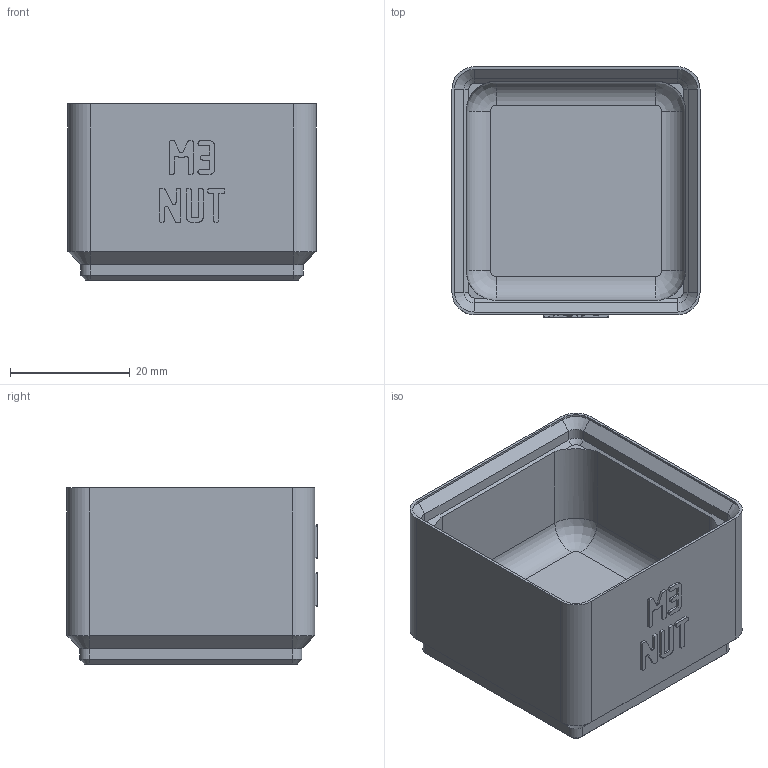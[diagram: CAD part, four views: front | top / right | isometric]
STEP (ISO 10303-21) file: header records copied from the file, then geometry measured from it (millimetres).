
FILE_DESCRIPTION(('Open CASCADE Model'),'2;1');
FILE_NAME('Open CASCADE Shape Model','2026-11-03T10:23:52',('Author'),( 'Open CASCADE'),'Open CASCADE STEP processor 8.0','build123d', 'Unknown');
FILE_SCHEMA(('AUTOMOTIVE_DESIGN { 1 0 10303 214 1 1 1 1 }'));
Length unit declared in the file: millimetre
Products named in the file (1): COMPOUND
Bounding box: 41.5 x 41.9 x 29.5 mm (x, y, z)
Volume: 18935.9 mm3; surface area: 10633.2 mm2
Topology: 1 solids, 1 shells, 542 faces, 1546 edges, 1012 vertices
Faces by surface type: plane 498, cylinder 24, cone 16, revolution 4
Entity records: 36390 total; most frequent: CARTESIAN_POINT 7449, DIRECTION 4672, LINE 3434, VECTOR 3434, ORIENTED_EDGE 3092, PCURVE 3092, DEFINITIONAL_REPRESENTATION 3092, EDGE_CURVE 1546
